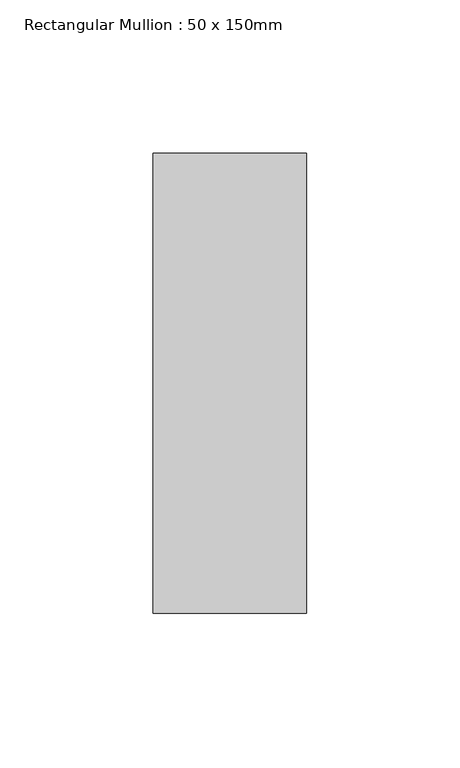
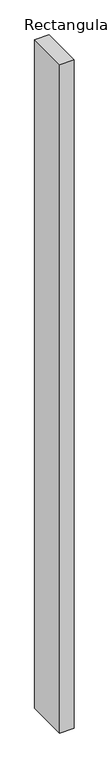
"""IFC4 building model written with IfcOpenShell, lengths in millimetres: member geometry, Rectangular Mullion : 50 x 150mm."""

from ifc_helpers import new_model, si_unit, frame, origin, place, context, project, spatial, polyline, outline, extrude, source, transform, mapped, element, save


def rectangular_mullion_50_x_150mm_7327b6b9(model_context):
    return source(origin(), model_context, "Body", "SweptSolid", [
        extrude(outline(polyline([(25.0, 75.0), (25.0, -75.0), (-25.0, -75.0), (-25.0, 75.0), (25.0, 75.0)])), frame((0.0, 0.0, -2445.0), z_axis=(0.0, 0.0, 1.0), x_axis=(1.0, 0.0, 0.0)), (0.0, 0.0, 1.0), 2445.0),
    ])


if __name__ == "__main__":
    model = new_model("IFC4")
    model_context = context("Model", 3, world=origin())
    ifc_project = project(units=[si_unit("LENGTHUNIT", "METRE", prefix="MILLI")], contexts=[model_context])
    site = spatial("IfcSite", under=ifc_project)
    building = spatial("IfcBuilding", under=site)
    placement = place(None, origin())
    rectangular_mullion_50_x_150mm_shape = rectangular_mullion_50_x_150mm_7327b6b9(model_context)
    element("IfcMember", 1, ObjectType="Rectangular Mullion : 50 x 150mm", at=placement, inside=building, context=model_context, shape_type="MappedRepresentation", body=[
        mapped(rectangular_mullion_50_x_150mm_shape, transform((0.0, 0.0, 0.0), x_axis=(1.0, 0.0, 0.0), y_axis=(0.0, 1.0, 0.0), z_axis=(0.0, 0.0, 1.0))),
    ])
    save(model, "model.ifc")
